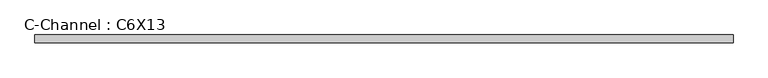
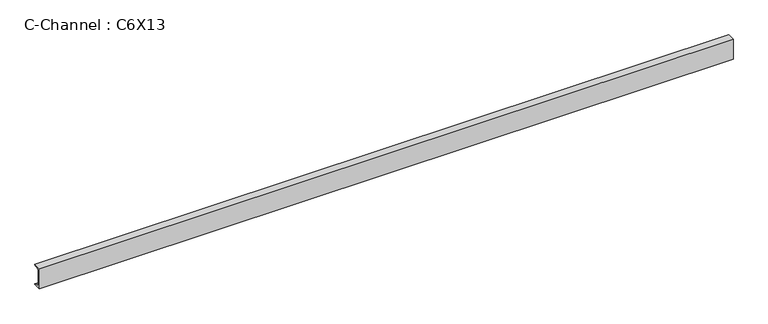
"""IFC4 building model written with IfcOpenShell, lengths in millimetres: beam geometry, C-Channel : C6X13."""

from ifc_helpers import new_model, si_unit, point, frame, frame_2d, origin, place, context, project, spatial, polyline, circle_curve, trimmed, segment, composite_curve, outline, extrude, source, transform, mapped, element, save


def c_channel_c6x13_805d20f2(model_context):
    return source(origin(), model_context, "Body", "SweptSolid", [
        extrude(outline(composite_curve([segment(polyline([(-13.0556, 76.2), (41.8084, 76.2)]), True, "CONTINUOUS"), segment(trimmed(circle_curve(frame_2d((33.0962, 76.2)), 8.7122), [point((41.8084, 76.2))], [point((33.0962, 67.4878))], False, "CARTESIAN"), True, "CONTINUOUS"), segment(polyline([(33.0962, 67.4878), (-1.9558, 61.9361086), (-1.9558, -61.9361086), (33.0962, -67.4878)]), True, "CONTINUOUS"), segment(trimmed(circle_curve(frame_2d((33.0962, -76.2)), 8.7122), [point((33.0962, -67.4878))], [point((41.8084, -76.2))], False, "CARTESIAN"), True, "CONTINUOUS"), segment(polyline([(41.8084, -76.2), (-13.0556, -76.2), (-13.0556, 76.2)]), True, "CONTINUOUS")], self_intersect=False)), frame((-2487.3002291, 0.0, 0.0), z_axis=(1.0, 0.0, 0.0), x_axis=(0.0, 1.0, 0.0)), (0.0, 0.0, 1.0), 4974.5655266),
    ])


if __name__ == "__main__":
    model = new_model("IFC4")
    model_context = context("Model", 3, world=origin())
    ifc_project = project(units=[si_unit("LENGTHUNIT", "METRE", prefix="MILLI")], contexts=[model_context])
    site = spatial("IfcSite", under=ifc_project)
    building = spatial("IfcBuilding", under=site)
    placement = place(None, origin())
    c_channel_c6x13_shape = c_channel_c6x13_805d20f2(model_context)
    element("IfcBeam", 1, ObjectType="C-Channel : C6X13", at=placement, inside=building, context=model_context, shape_type="MappedRepresentation", body=[
        mapped(c_channel_c6x13_shape, transform((0.0, 0.0, 0.0), x_axis=(1.0, 0.0, 0.0), y_axis=(0.0, 1.0, 0.0), z_axis=(0.0, 0.0, 1.0))),
    ])
    save(model, "model.ifc")
